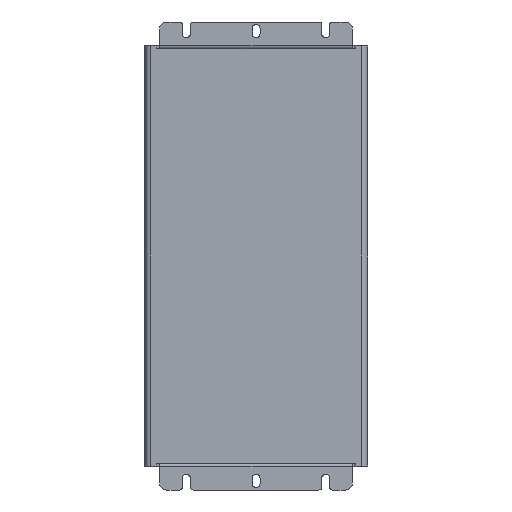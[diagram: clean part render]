
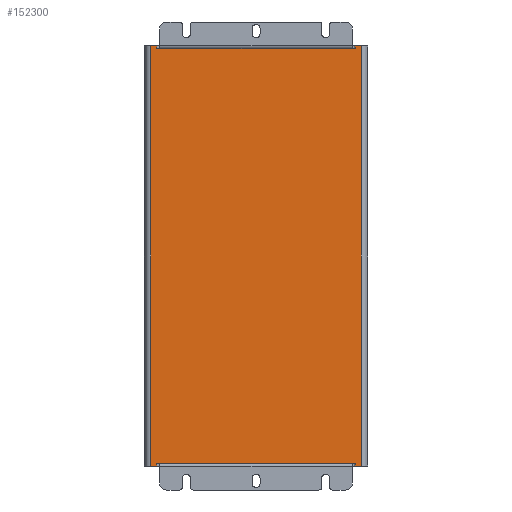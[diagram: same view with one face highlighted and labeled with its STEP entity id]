
A CAD part, front view. The second image highlights one B-rep face of the part: STEP entity #152300.
In plain terms, the highlighted planar face has unit normal (0, -1, 0).
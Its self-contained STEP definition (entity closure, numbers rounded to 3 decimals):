
#4670=CARTESIAN_POINT('',(1820.842,-2443.289,
79.4));
#4680=VERTEX_POINT('',#4670);
#4710=CARTESIAN_POINT('',(1820.842,-2443.289,79.4));
#4720=DIRECTION('',(0.,0.,-1.));
#4730=VECTOR('',#4720,1.);
#4740=LINE('',#4710,#4730);
#4750=CARTESIAN_POINT('',(1820.842,-2443.289,77.8));
#4760=VERTEX_POINT('',#4750);
#4770=EDGE_CURVE('',#4680,#4760,#4740,.T.);
#38000=CARTESIAN_POINT('',(1824.218,-2443.289,313.));
#38010=VERTEX_POINT('',#38000);
#38040=CARTESIAN_POINT('',(1712.324,-2443.289,313.));
#38050=DIRECTION('',(1.,0.,0.));
#38060=VECTOR('',#38050,1.);
#38070=LINE('',#38040,#38060);
#38080=CARTESIAN_POINT('',(1820.842,-2443.289,313.));
#38090=VERTEX_POINT('',#38080);
#38100=EDGE_CURVE('',#38090,#38010,#38070,.T.);
#38660=CARTESIAN_POINT('',(1709.842,-2443.289,313.));
#38670=VERTEX_POINT('',#38660);
#38700=CARTESIAN_POINT('',(1712.324,-2443.289,313.));
#38710=DIRECTION('',(1.,0.,0.));
#38720=VECTOR('',#38710,1.);
#38730=LINE('',#38700,#38720);
#38740=CARTESIAN_POINT('',(1706.467,-2443.289,313.));
#38750=VERTEX_POINT('',#38740);
#38760=EDGE_CURVE('',#38750,#38670,#38730,.T.);
#46040=CARTESIAN_POINT('',(1709.842,-2443.289,77.8));
#46050=VERTEX_POINT('',#46040);
#46080=CARTESIAN_POINT('',(1709.842,-2443.289,79.4));
#46090=DIRECTION('',(0.,0.,-1.));
#46100=VECTOR('',#46090,1.);
#46110=LINE('',#46080,#46100);
#46120=CARTESIAN_POINT('',(1709.842,-2443.289,
79.4));
#46130=VERTEX_POINT('',#46120);
#46140=EDGE_CURVE('',#46130,#46050,#46110,.T.);
#47270=CARTESIAN_POINT('',(1706.467,-2443.289,77.8));
#47280=VERTEX_POINT('',#47270);
#47370=CARTESIAN_POINT('',(1706.466,-2443.289,
84.4));
#47380=DIRECTION('',(0.,0.,1.));
#47390=VECTOR('',#47380,1.);
#47400=LINE('',#47370,#47390);
#47410=EDGE_CURVE('',#47280,#38750,#47400,.T.);
#47570=CARTESIAN_POINT('',(1824.218,-2443.289,77.8));
#47580=VERTEX_POINT('',#47570);
#47610=CARTESIAN_POINT('',(1824.218,-2443.289,
84.4));
#47620=DIRECTION('',(0.,0.,1.));
#47630=VECTOR('',#47620,1.);
#47640=LINE('',#47610,#47630);
#47650=EDGE_CURVE('',#47580,#38010,#47640,.T.);
#56530=CARTESIAN_POINT('',(1706.466,-2443.289,
79.4));
#56540=DIRECTION('',(1.,0.,0.));
#56550=VECTOR('',#56540,1.);
#56560=LINE('',#56530,#56550);
#56570=EDGE_CURVE('',#46130,#4680,#56560,.T.);
#133590=CARTESIAN_POINT('',(1820.842,-2443.289,311.4));
#133600=VERTEX_POINT('',#133590);
#133630=CARTESIAN_POINT('',(1706.466,-2443.289,
311.4));
#133640=DIRECTION('',(1.,0.,0.));
#133650=VECTOR('',#133640,1.);
#133660=LINE('',#133630,#133650);
#133670=CARTESIAN_POINT('',(1709.842,-2443.289,311.4));
#133680=VERTEX_POINT('',#133670);
#133690=EDGE_CURVE('',#133680,#133600,#133660,.T.);
#136340=CARTESIAN_POINT('',(1709.842,-2443.289,311.4));
#136350=DIRECTION('',(0.,0.,1.));
#136360=VECTOR('',#136350,1.);
#136370=LINE('',#136340,#136360);
#136380=EDGE_CURVE('',#133680,#38670,#136370,.T.);
#145460=CARTESIAN_POINT('',(1820.842,-2443.289,311.4));
#145470=DIRECTION('',(0.,0.,1.));
#145480=VECTOR('',#145470,1.);
#145490=LINE('',#145460,#145480);
#145500=EDGE_CURVE('',#133600,#38090,#145490,.T.);
#152010=CARTESIAN_POINT('',(1827.342,-2443.289,311.4));
#152020=DIRECTION('',(-0.,-1.,-0.));
#152030=DIRECTION('',(-1.,0.,0.));
#152040=AXIS2_PLACEMENT_3D('',#152010,#152020,#152030);
#152050=PLANE('',#152040);
#152060=CARTESIAN_POINT('',(1818.36,-2443.289,77.8));
#152070=DIRECTION('',(-1.,0.,0.));
#152080=VECTOR('',#152070,1.);
#152090=LINE('',#152060,#152080);
#152100=EDGE_CURVE('',#47580,#4760,#152090,.T.);
#152110=ORIENTED_EDGE('',*,*,#152100,.F.);
#152120=ORIENTED_EDGE('',*,*,#4770,.T.);
#152130=ORIENTED_EDGE('',*,*,#56570,.T.);
#152140=ORIENTED_EDGE('',*,*,#46140,.F.);
#152150=CARTESIAN_POINT('',(1818.36,-2443.289,77.8));
#152160=DIRECTION('',(-1.,0.,0.));
#152170=VECTOR('',#152160,1.);
#152180=LINE('',#152150,#152170);
#152190=EDGE_CURVE('',#46050,#47280,#152180,.T.);
#152200=ORIENTED_EDGE('',*,*,#152190,.F.);
#152210=ORIENTED_EDGE('',*,*,#47410,.F.);
#152220=ORIENTED_EDGE('',*,*,#38760,.F.);
#152230=ORIENTED_EDGE('',*,*,#136380,.T.);
#152240=ORIENTED_EDGE('',*,*,#133690,.F.);
#152250=ORIENTED_EDGE('',*,*,#145500,.F.);
#152260=ORIENTED_EDGE('',*,*,#38100,.F.);
#152270=ORIENTED_EDGE('',*,*,#47650,.T.);
#152280=EDGE_LOOP('',(#152270,#152260,#152250,#152240,#152230,#152220,
#152210,#152200,#152140,#152130,#152120,#152110));
#152290=FACE_OUTER_BOUND('',#152280,.T.);
#152300=ADVANCED_FACE('',(#152290),#152050,.T.);
